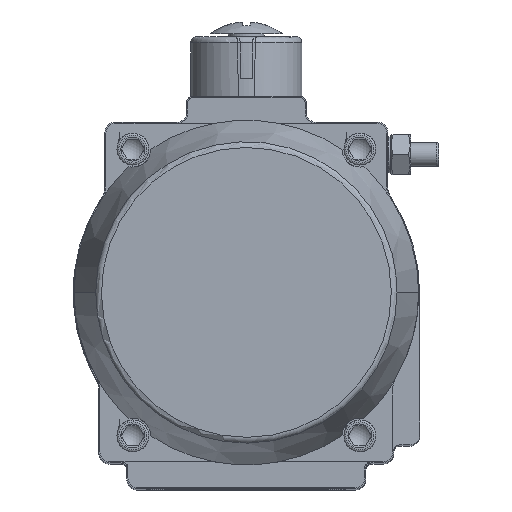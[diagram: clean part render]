
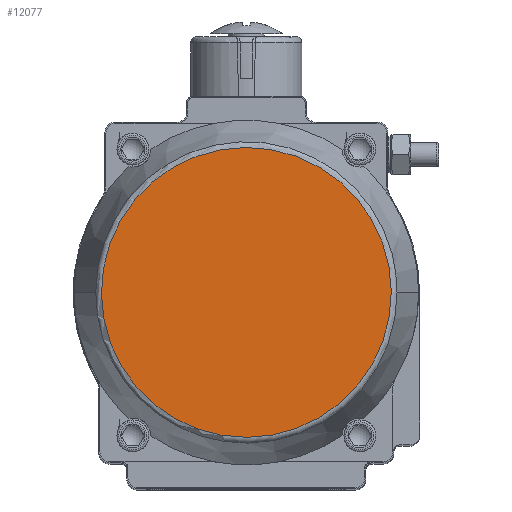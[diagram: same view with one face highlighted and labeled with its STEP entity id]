
A CAD part, top view. The second image highlights one B-rep face of the part: STEP entity #12077.
In plain terms, the highlighted planar face has unit normal (0, 0, 1).
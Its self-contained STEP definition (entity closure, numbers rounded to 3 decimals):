
#12077=ADVANCED_FACE('',(#23118),#23120,.F.);
#23118=FACE_BOUND('',#23119,.T.);
#23119=EDGE_LOOP('',(#28730));
#23120=PLANE('',#23121);
#23121=AXIS2_PLACEMENT_3D('',#23122,#23123,#23124);
#23122=CARTESIAN_POINT('',(0.,0.,228.));
#23123=DIRECTION('',(0.,0.,-1.));
#23124=DIRECTION('',(-1.,0.,0.));
#28730=ORIENTED_EDGE('',*,*,#31218,.F.);
#31218=EDGE_CURVE('',#35676,#35676,#35677,.T.);
#35676=VERTEX_POINT('',#74677);
#35677=CIRCLE('',#74678,72.77);
#74677=CARTESIAN_POINT('',(0.418,-72.768,228.));
#74678=AXIS2_PLACEMENT_3D('',#74679,#74680,#74681);
#74679=CARTESIAN_POINT('',(0.,0.,228.));
#74680=DIRECTION('',(0.,0.,-1.));
#74681=DIRECTION('',(-1.,0.,0.));
